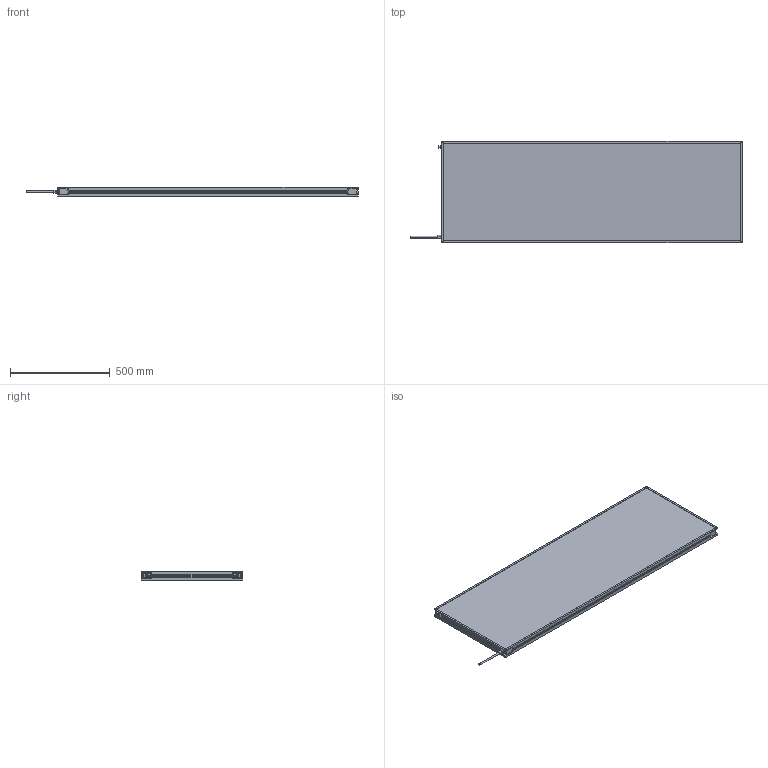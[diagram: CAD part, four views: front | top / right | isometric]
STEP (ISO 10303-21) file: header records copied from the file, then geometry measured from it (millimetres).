
FILE_DESCRIPTION (( 'STEP AP214' ), '1' );
FILE_NAME ('MBACK-xxxx-xxx-M1A2_CLIENT500x1500.STEP', '2022-04-01T11:41:34', ( '' ), ( '' ), 'SwSTEP 2.0', 'SolidWorks 2020', '' );
FILE_SCHEMA (( 'AUTOMOTIVE_DESIGN' ));
Length unit declared in the file: millimetre
Products named in the file (1): MBACK-xxxx-xxx-M1A2_CLIENT500x1500
Bounding box: 1667.4 x 508 x 45.5 mm (x, y, z)
Volume: 31916245.3 mm3; surface area: 1805929.5 mm2
Topology: 1 solids, 1 shells, 470 faces, 1210 edges, 804 vertices
Faces by surface type: plane 265, cylinder 117, bspline 80, cone 8
Entity records: 18046 total; most frequent: CARTESIAN_POINT 6837, ORIENTED_EDGE 2420, DIRECTION 2082, EDGE_CURVE 1210, VERTEX_POINT 804, LINE 800, VECTOR 800, AXIS2_PLACEMENT_3D 641
